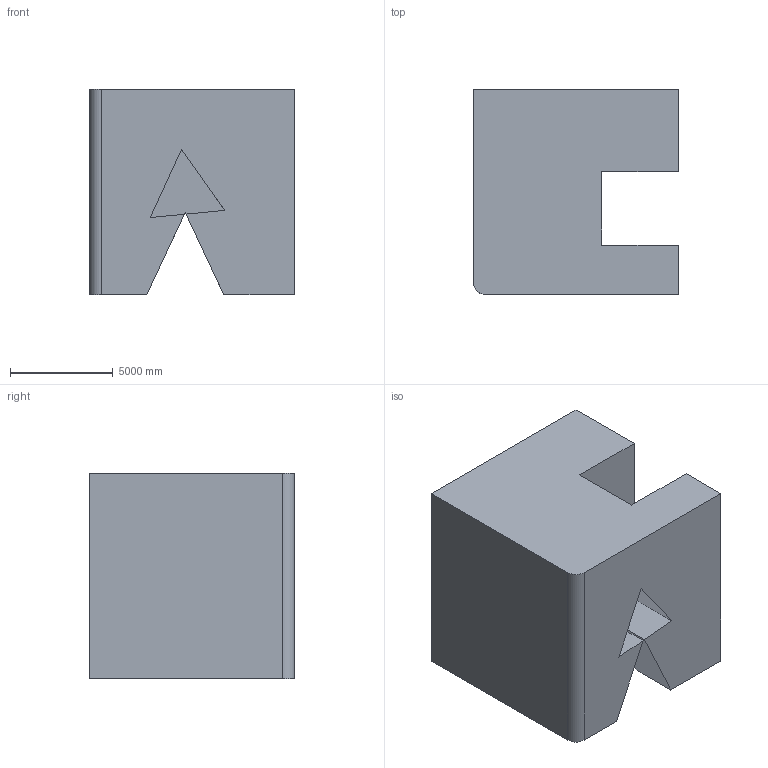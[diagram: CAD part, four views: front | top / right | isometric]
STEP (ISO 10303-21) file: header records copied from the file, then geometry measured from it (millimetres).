
FILE_DESCRIPTION (( 'STEP AP203' ), '1' );
FILE_NAME ('134.STEP', '2022-09-05T15:40:05', ( 'user' ), ( '' ), 'SwSTEP 2.0', 'SolidWorks 2021', '' );
FILE_SCHEMA (( 'CONFIG_CONTROL_DESIGN' ));
Length unit declared in the file: centimetre
Products named in the file (1): 134
Bounding box: 10000 x 10000 x 10000 mm (x, y, z)
Volume: 738426179210.9 mm3; surface area: 766508458.5 mm2
Topology: 1 solids, 1 shells, 21 faces, 63 edges, 42 vertices
Faces by surface type: plane 20, cylinder 1
Entity records: 780 total; most frequent: CARTESIAN_POINT 127, ORIENTED_EDGE 126, DIRECTION 109, EDGE_CURVE 63, LINE 61, VECTOR 61, VERTEX_POINT 42, AXIS2_PLACEMENT_3D 24
